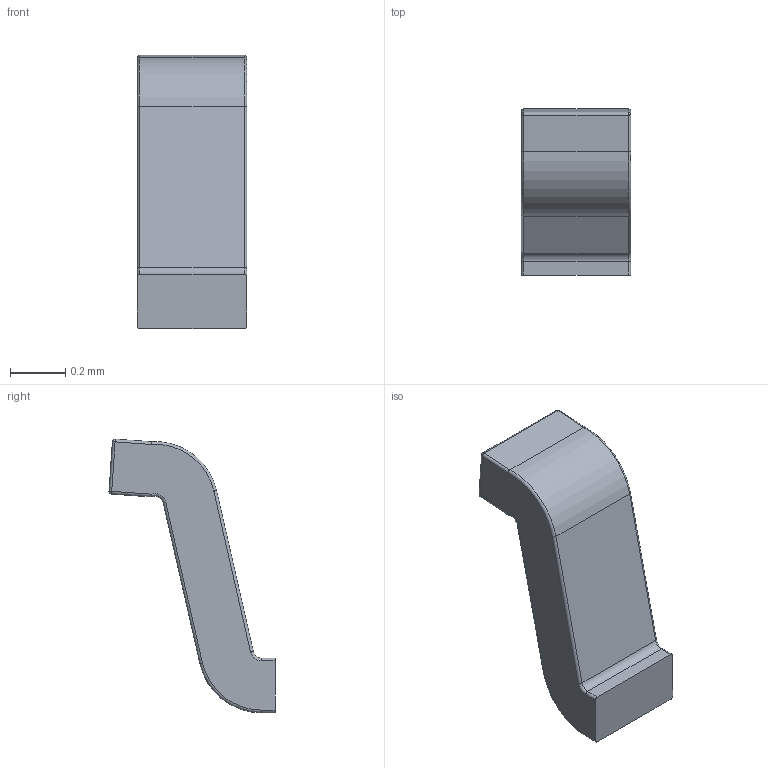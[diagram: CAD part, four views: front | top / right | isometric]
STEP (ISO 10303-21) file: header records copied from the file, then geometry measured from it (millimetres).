
FILE_DESCRIPTION(/* description */ ('STEP AP242 Edition 2','CAx-IF Rec.Pracs.---Representation and Presentation of Product Manufacturing Information (PMI)---4.0---2014-10-13','CAx-IF Rec.Pracs.---3D Tessellated Geometry---0.4---2014-09-14','2;1','CAx-IF Rec.Pracs.---User Defined Attributes---1.5---2016-08-15'),/* implementation_level */ '2;1');
FILE_NAME(/* name */ 'Assembly 1 - SOT-23-6_L2.9-W1.6-P0.95-LS2.8-BL~SOT-23-6_L2.9-W1.6-H1.5-LS2.8-P0.95~nxQB (5)',/* time_stamp */ '2026-04-02T09:55:25Z',/* author */ (''),/* organization */ (''),/* preprocessor_version */ 'ST-DEVELOPER v20',/* originating_system */ 'ONSHAPE BY PTC INC, 1.212',/* authorisation */ ' ');
FILE_SCHEMA (('AP242_MANAGED_MODEL_BASED_3D_ENGINEERING_MIM_LF { 1 0 10303 442 3 1 4 }'));
Length unit declared in the file: metre
Products named in the file (1): SOT-23-6_L2.9-W1.6-P0.95-LS2.8-BL~SOT-23-6_L2.9-W1.6-H1.5-LS2.8-P0.95
~nxQB
Bounding box: 0.4 x 0.6 x 0.99 mm (x, y, z)
Volume: 0.1 mm3; surface area: 1.5 mm2
Topology: 1 solids, 1 shells, 42 faces, 96 edges, 54 vertices
Faces by surface type: cylinder 20, plane 10, torus 8, sphere 4
Entity records: 1487 total; most frequent: CARTESIAN_POINT 223, DIRECTION 222, ORIENTED_EDGE 184, EDGE_CURVE 92, AXIS2_PLACEMENT_3D 89, VERTEX_POINT 52, CIRCLE 46, LINE 44
